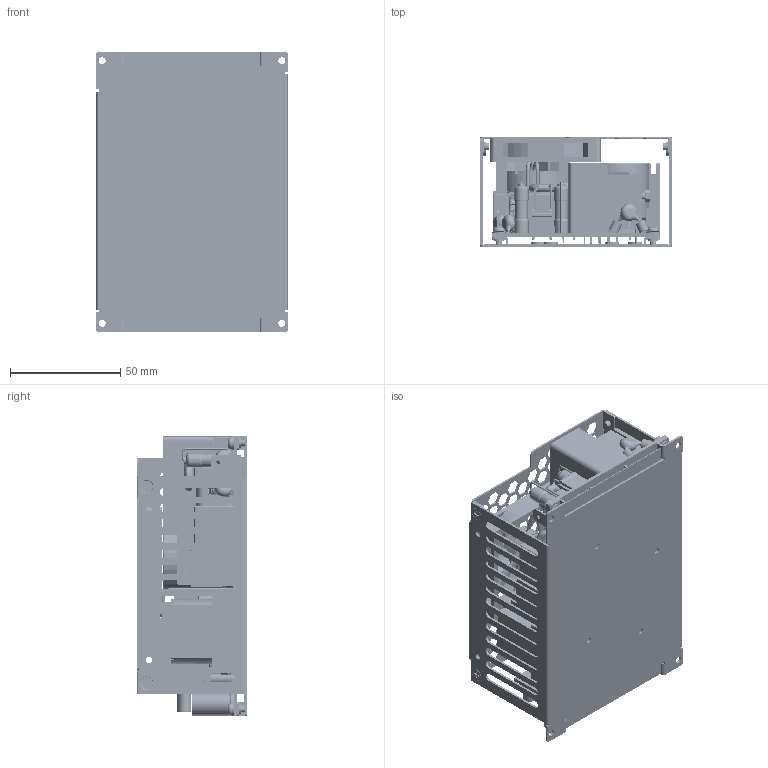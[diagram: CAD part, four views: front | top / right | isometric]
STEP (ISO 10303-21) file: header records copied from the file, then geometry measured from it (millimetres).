
FILE_DESCRIPTION (( 'STEP AP214' ), '1' );
FILE_NAME ('ECH450PS36_56-TF.STEP', '2020-04-07T14:00:49', ( '' ), ( '' ), 'SwSTEP 2.0', 'SolidWorks 2018', '' );
FILE_SCHEMA (( 'AUTOMOTIVE_DESIGN' ));
Length unit declared in the file: inch
Products named in the file (53): P3X6; R3140104045_CN2; 86K18N60M2_Q2Q3; TEMP; L201; 32_5X28X30_5; 3PIN_PITCH2_0; M3_NUT_S; ECH450_UP_FRPP; 11X6_5X5; ECH450_CASE_UP_TOP; GLASS_TYPE; ECH450_Heatsink_ASM; HEADER_R36BA37_001; RIGHT_ANGLE; PCB2; 8X16; 85D7BU8061_BD1; C3; C19; CAP_30X32MM; 830A6069HZ; C21; 3340030201_M3NUT; ECH450_Heatsink_2; 58C77-1025_Y1_BEADCORE; T201; 3320030082_M3X8; 58C77-1025_Y1; 10X19_2; 16X9X9; ECH450_CASE_UP_BOT; 6_3X6; 5010_FAN; P4_5X8TAPNI; ECH450_PCB; T1; 5_2X10_5; ECH450PS36_56-TF; 21014-0030_FG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
Assembly tree (97 placements, depth 4):
  ECH450PS36_56-TF
    ECH450_CASE_UP_BOT_ASM
      ECH450_CASE_UP_BOT
      M3_NUT_S  x8
    ECH450_UP_FRPP
    ECH450_CASE_UP_TOP
    F3X4ISONI  x4
    5010_FAN
    P4_5X8TAPNI  x4
    P3X6  x4
    ECH450PS36_56
      ECH450_PCB
      ECH450_Heatsink_ASM
        ECH450_Heatsink_1
        LDPIN01  x2
      ECH450_Heatsink_ASM2
        ECH450_Heatsink_2
        LDPIN01  x2
      JST_B3P2_VH
      21014-0030_FG
      CAP_30X32MM
      85D7BU8061_BD1
      86K18N60M2_Q2Q3  x5
      3320030082_M3X8  x6
      3340030201_M3NUT  x6
      58C77-1025_Y1_BEADCORE  x2
      830A6069HZ
      58C77-1025_Y1  x4
      C21  x2
      C3
      C19
      11X6_5X5
      L2
      RIGHT_ANGLE
      16X9X9
      GLASS_TYPE  x2
      32_5X28X30_5
      R3140104045_CN2  x2
      10X19_2  x3
      8X16
      TEMP
      PCB2
      HEADER_R36BA37_001
      L301
      C30
      T201
      T1
      3PIN_PITCH2_0
      JST_B4P0_VH
      6_3X6
      5_2X10_5
      L201
      6_3X11  x4
      F540_SMALL_PCB1
Bounding box: 86.6 x 50 x 127 mm (x, y, z)
Volume: 141418.6 mm3; surface area: 176972.9 mm2
Topology: 125 solids, 127 shells, 5103 faces, 12826 edges, 8035 vertices
Faces by surface type: plane 2721, bspline 1429, cylinder 768, cone 165, torus 20
Entity records: 242501 total; most frequent: CARTESIAN_POINT 149852, ORIENTED_EDGE 19944, DIRECTION 16460, EDGE_CURVE 9975, VERTEX_POINT 6209, VECTOR 6086, LINE 6086, AXIS2_PLACEMENT_3D 5187
